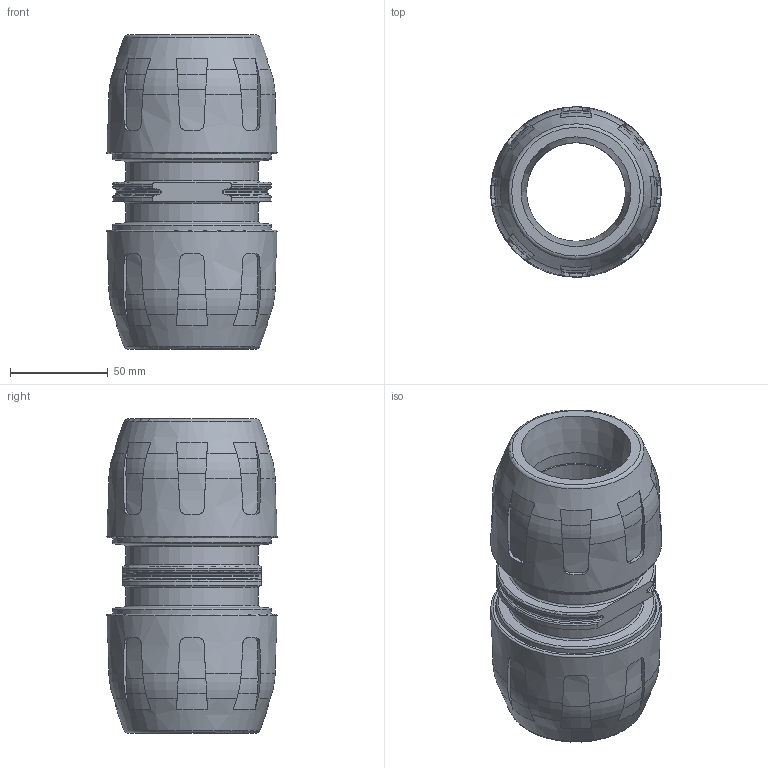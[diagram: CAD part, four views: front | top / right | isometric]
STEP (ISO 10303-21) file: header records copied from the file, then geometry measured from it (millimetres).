
FILE_DESCRIPTION( ( 'STEP AP214' ), '1' );
FILE_NAME( ' ', ' ', ( ' ' ), ( ' ' ), 'PSStep 11.0', 'VISI 17.0', ' ' );
FILE_SCHEMA( ( 'AUTOMOTIVE_DESIGN { 1 0 10303 214 1 1 1 1 }' ) );
Length unit declared in the file: millimetre
Products named in the file (3): 1; 2; 3
Bounding box: 87.34 x 87.31 x 160.92 mm (x, y, z)
Volume: 480880.1 mm3; surface area: 123455.4 mm2
Topology: 3 solids, 3 shells, 429 faces, 1213 edges, 804 vertices
Faces by surface type: plane 214, cone 96, cylinder 57, bspline 32, torus 30
Full cylindrical faces by diameter (mm): 50.625 x2, 50.9 x1, 68 x2, 70.3 x2, 71.6 x4, 75.8 x2, 76.4 x2, 81.4 x2, 82.4 x2
Entity records: 18790 total; most frequent: CARTESIAN_POINT 5026, ORIENTED_EDGE 2280, DIRECTION 1984, EDGE_CURVE 1140, AXIS2_PLACEMENT_3D 856, VERTEX_POINT 782, EDGE_LOOP 500, FACE_OUTER_BOUND 468
